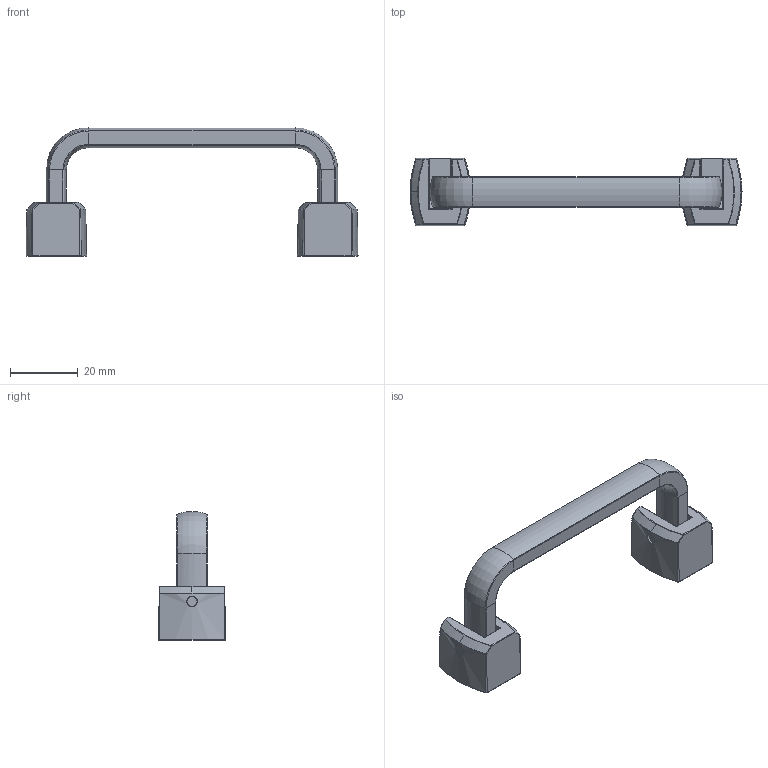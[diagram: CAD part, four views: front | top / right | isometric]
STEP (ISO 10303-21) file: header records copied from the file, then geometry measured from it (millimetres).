
FILE_DESCRIPTION (( 'STEP AP203' ), '1' );
FILE_NAME ('XG01-101-1.STEP', '2025-04-03T08:08:41', ( '微软用户' ), ( '微软中国' ), 'SwSTEP 2.0', 'SolidWorks 2024', '' );
FILE_SCHEMA (( 'CONFIG_CONTROL_DESIGN' ));
Length unit declared in the file: millimetre
Products named in the file (1): XG01-101-1
Bounding box: 97.84 x 19.79 x 37.97 mm (x, y, z)
Volume: 14305.1 mm3; surface area: 8388.9 mm2
Topology: 8 solids, 8 shells, 756 faces, 2084 edges, 1338 vertices
Faces by surface type: plane 540, cylinder 96, torus 40, bspline 38, cone 30, sphere 12
Entity records: 29963 total; most frequent: CARTESIAN_POINT 10605, ORIENTED_EDGE 4140, DIRECTION 3968, EDGE_CURVE 2070, LINE 1350, VECTOR 1350, VERTEX_POINT 1336, AXIS2_PLACEMENT_3D 1309
